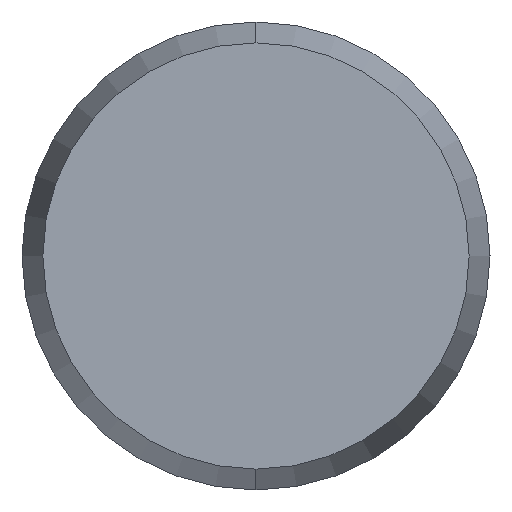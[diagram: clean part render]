
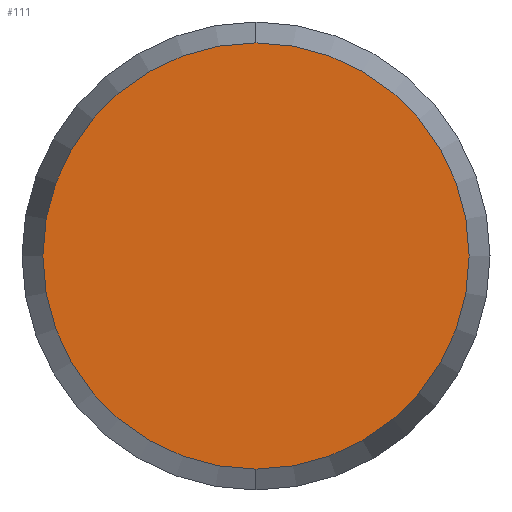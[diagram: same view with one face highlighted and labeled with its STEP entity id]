
A CAD part, left-side view. The second image highlights one B-rep face of the part: STEP entity #111.
In plain terms, the highlighted planar face has unit normal (-1, 0, 0).
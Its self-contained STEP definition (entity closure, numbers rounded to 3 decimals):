
#30 = PLANE ( 'NONE',  #46 ) ;
#37 = FACE_OUTER_BOUND ( 'NONE', #109, .T. ) ;
#44 = DIRECTION ( 'NONE',  ( 1., 0., 0. ) ) ;
#45 = CARTESIAN_POINT ( 'NONE',  ( -22.5, 0., 0. ) ) ;
#46 = AXIS2_PLACEMENT_3D ( 'NONE', #45, #44, #51 ) ;
#51 = DIRECTION ( 'NONE',  ( 0., 0., -1. ) ) ;
#53 = DIRECTION ( 'NONE',  ( 1., 0., 0. ) ) ;
#54 = CARTESIAN_POINT ( 'NONE',  ( -22.5, 0., 0. ) ) ;
#55 = AXIS2_PLACEMENT_3D ( 'NONE', #54, #53, #58 ) ;
#57 = CIRCLE ( 'NONE', #55, 1.366 ) ;
#58 = DIRECTION ( 'NONE',  ( 0., 0., -1. ) ) ;
#60 = DIRECTION ( 'NONE',  ( 0., 0., -1. ) ) ;
#61 = DIRECTION ( 'NONE',  ( 1., 0., 0. ) ) ;
#62 = CARTESIAN_POINT ( 'NONE',  ( -22.5, 0., 0. ) ) ;
#63 = AXIS2_PLACEMENT_3D ( 'NONE', #62, #61, #60 ) ;
#70 = CIRCLE ( 'NONE', #63, 1.366 ) ;
#97 = ORIENTED_EDGE ( 'NONE', *, *, #129, .F. ) ;
#101 = EDGE_CURVE ( 'NONE', #131, #130, #57, .T. ) ;
#109 = EDGE_LOOP ( 'NONE', ( #97, #116 ) ) ;
#111 = ADVANCED_FACE ( 'NONE', ( #37 ), #30, .F. ) ;
#116 = ORIENTED_EDGE ( 'NONE', *, *, #101, .F. ) ;
#129 = EDGE_CURVE ( 'NONE', #130, #131, #70, .T. ) ;
#130 = VERTEX_POINT ( 'NONE', #171 ) ;
#131 = VERTEX_POINT ( 'NONE', #170 ) ;
#170 = CARTESIAN_POINT ( 'NONE',  ( -22.5, 0., -1.366 ) ) ;
#171 = CARTESIAN_POINT ( 'NONE',  ( -22.5, 0., 1.366 ) ) ;
